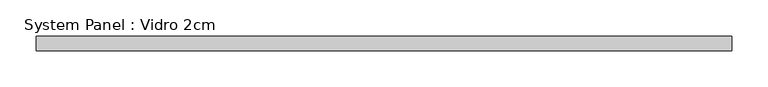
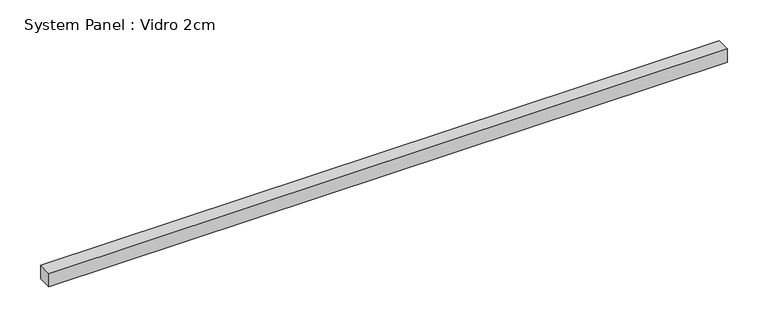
"""IFC4 building model written with IfcOpenShell, lengths in millimetres: plate geometry, System Panel : Vidro 2cm."""

from ifc_helpers import new_model, si_unit, origin, origin_with_axes, place, context, project, spatial, polyline, outline, extrude, source, transform, mapped, element, save


def system_panel_vidro_2cm_5412c861(model_context):
    return source(origin(), model_context, "Body", "SweptSolid", [
        extrude(outline(polyline([(480.0000002, -20.0), (-480.0000002, -20.0), (-480.0000002, 0.0), (480.0000002, 0.0), (480.0000002, -20.0)])), origin_with_axes(), (0.0, 0.0, 1.0), 20.0),
    ])


if __name__ == "__main__":
    model = new_model("IFC4")
    model_context = context("Model", 3, world=origin())
    ifc_project = project(units=[si_unit("LENGTHUNIT", "METRE", prefix="MILLI")], contexts=[model_context])
    site = spatial("IfcSite", under=ifc_project)
    building = spatial("IfcBuilding", under=site)
    placement = place(None, origin())
    system_panel_vidro_2cm_shape = system_panel_vidro_2cm_5412c861(model_context)
    element("IfcPlate", 1, ObjectType="System Panel : Vidro 2cm", at=placement, inside=building, context=model_context, shape_type="MappedRepresentation", body=[
        mapped(system_panel_vidro_2cm_shape, transform((0.0, 0.0, 0.0), x_axis=(1.0, 0.0, 0.0), y_axis=(0.0, 1.0, 0.0), z_axis=(0.0, 0.0, 1.0))),
    ])
    save(model, "model.ifc")
